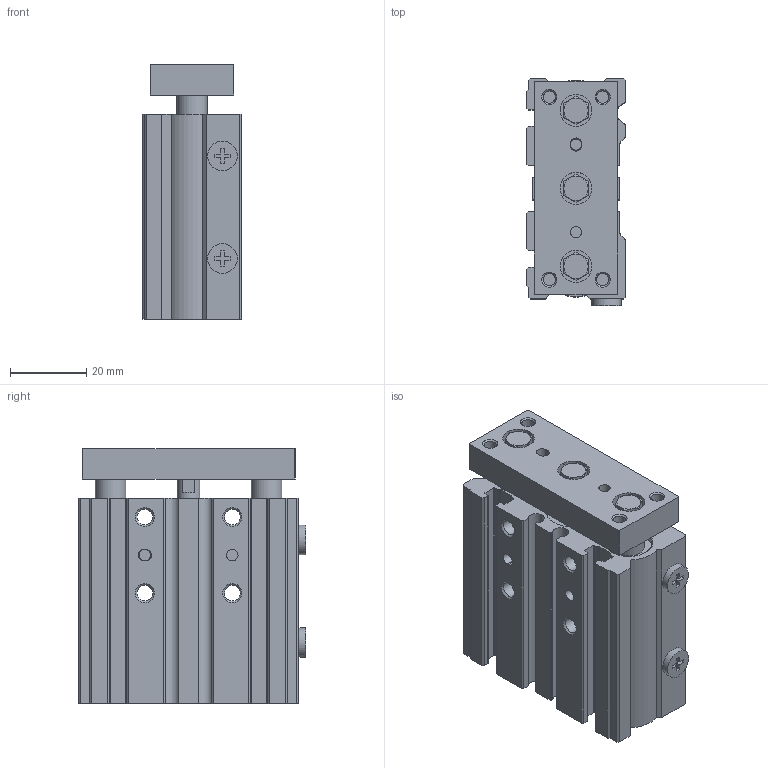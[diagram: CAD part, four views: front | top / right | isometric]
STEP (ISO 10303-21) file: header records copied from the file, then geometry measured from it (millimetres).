
FILE_DESCRIPTION( ( 'STEP AP214' ), '1' );
FILE_NAME( 'C:/Users/emc02044/Desktop/SGL SGM/SGM12X25-S.stp', '2026-07-24T00:58:25', ( 'License CC BY-ND 4.0' ), ( 'CADENAS' ), ' ', 'PARTsolutions', ' ' );
FILE_SCHEMA( ( 'AUTOMOTIVE_DESIGN { 1 0 10303 214 1 1 1 1 }' ) );
Length unit declared in the file: millimetre
Products named in the file (4): SGM12X25X0-S(); _SGM12x25-M(SG:Shaft cylinderM12X25X0-S:with magnet()dummy-0) 0; _SGM12x25-M(-0)-body; _SGM12x25-M(-0)-rod
Assembly tree (3 placements, depth 2):
  SGM12X25X0-S()
    _SGM12x25-M(SG:Shaft cylinderM12X25X0-S:with magnet()dummy-0) 0
    _SGM12x25-M(-0)-body
    _SGM12x25-M(-0)-rod
Bounding box: 26 x 59.8 x 67 mm (x, y, z)
Volume: 71001.8 mm3; surface area: 31738 mm2
Topology: 2 solids, 4 shells, 354 faces, 863 edges, 556 vertices
Faces by surface type: plane 186, cylinder 107, cone 61
Full cylindrical faces by diameter (mm): 3 x6, 3.242 x8, 4.134 x8, 4.2 x4, 6 x2, 7.8 x2, 8 x8, 8.39 x3, 10 x2, 11.8 x1, 12 x1, 12.1 x2, 14 x1, 14.54 x1
Entity records: 12924 total; most frequent: CARTESIAN_POINT 1971, DIRECTION 1682, ORIENTED_EDGE 1550, EDGE_CURVE 775, AXIS2_PLACEMENT_3D 637, VERTEX_POINT 541, EDGE_LOOP 486, LINE 408
